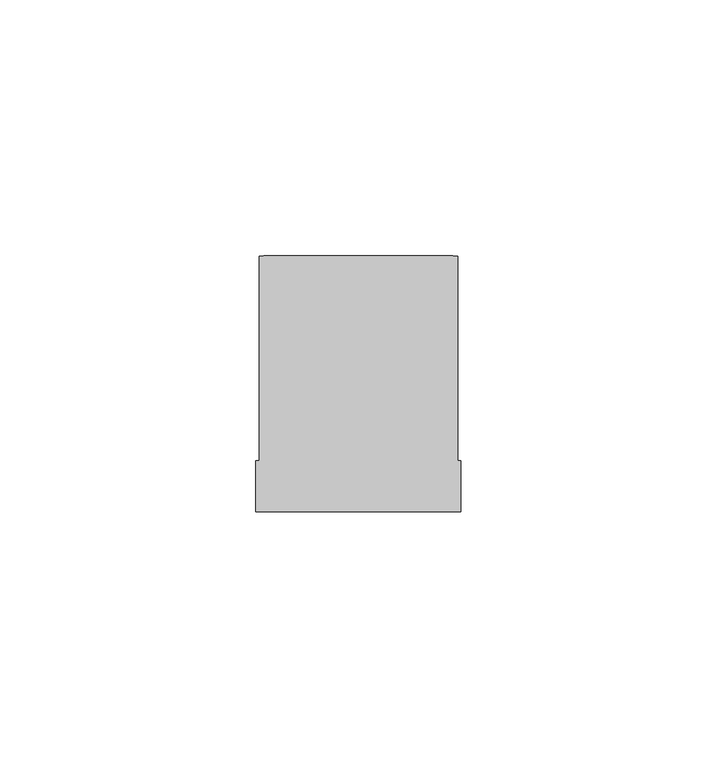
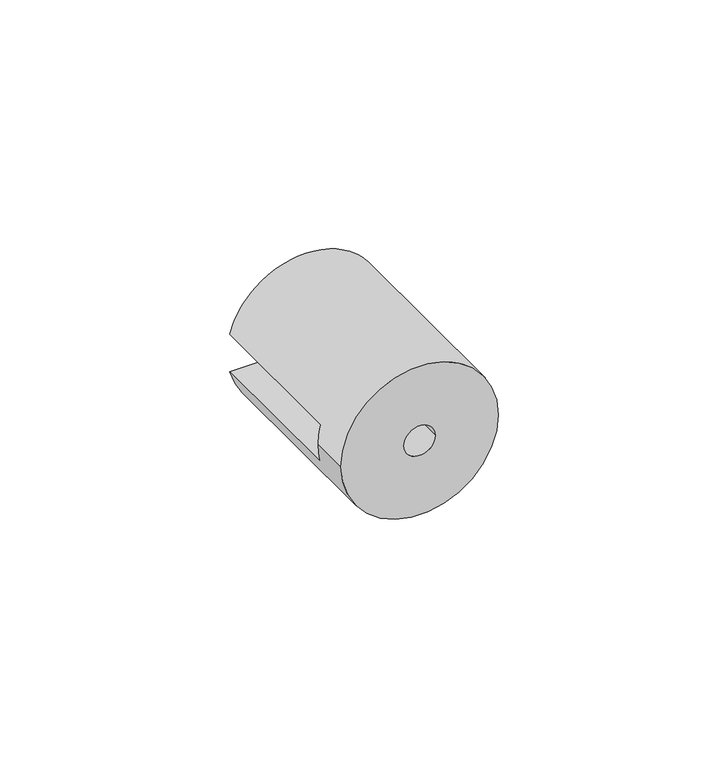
"""IFC4 building model written with IfcOpenShell, lengths in millimetres: furniture geometry, Suporte Prateleira de Vidro : Suporte Prateleira de Vidro."""

from ifc_helpers import new_model, si_unit, frame, origin, place, context, project, spatial, polyline, circle_curve, source, transform, mapped, element, save
from ifc_brep_helpers import plane_surface, cylinder_surface, revolved_surface, advanced_brep


def furniture_ae89cad7(model_context):
    return source(origin(), model_context, "Body", "AdvancedBrep", [
        advanced_brep(
        [(40.0, 0.0, 5.0), (0.0, 0.0, 5.0), (24.0, 0.0, 5.0), (16.0, 0.0, 5.0), (39.3649167, 50.0, 0.0), (0.6350833, 50.0, 0.0), (0.6350833, 50.0, 10.0), (39.3649167, 50.0, 10.0), (40.0, 10.0, 5.0), (39.3649167, 10.0, 10.0), (0.6350833, 10.0, 10.0), (0.0, 10.0, 5.0), (0.6350833, 10.0, 0.0), (39.3649167, 10.0, 0.0), (16.0, 10.0, 5.0), (24.0, 10.0, 5.0)],
        [
            (0, 1, circle_curve(frame((20.0, 0.0, 5.0), z_axis=(0.0, -1.0, 0.0), x_axis=(-1.0, 0.0, 0.0)), 20.0)),
            (1, 0, circle_curve(frame((20.0, 0.0, 5.0), z_axis=(0.0, -1.0, 0.0), x_axis=(-1.0, 0.0, 0.0)), 20.0)),
            (2, 3, circle_curve(frame((20.0, 0.0, 5.0), z_axis=(0.0, 1.0, 0.0), x_axis=(1.0, 0.0, 0.0)), 4.0)),
            (3, 2, circle_curve(frame((20.0, 0.0, 5.0), z_axis=(0.0, 1.0, 0.0), x_axis=(1.0, 0.0, 0.0)), 4.0)),
            (4, 5, circle_curve(frame((20.0, 50.0, 5.0), z_axis=(0.0, 1.0, 0.0), x_axis=(-1.0, 0.0, 0.0)), 20.0)),
            (5, 4),
            (6, 7, circle_curve(frame((20.0, 50.0, 5.0), z_axis=(0.0, 1.0, 0.0), x_axis=(-1.0, 0.0, 0.0)), 20.0)),
            (7, 6),
            (0, 8),
            (8, 9, circle_curve(frame((20.0, 10.0, 5.0), z_axis=(0.0, -1.0, 0.0), x_axis=(-1.0, 0.0, 0.0)), 20.0)),
            (9, 7),
            (6, 10),
            (10, 11, circle_curve(frame((20.0, 10.0, 5.0), z_axis=(0.0, -1.0, 0.0), x_axis=(-1.0, 0.0, 0.0)), 20.0)),
            (11, 1),
            (11, 12, circle_curve(frame((20.0, 10.0, 5.0), z_axis=(0.0, -1.0, 0.0), x_axis=(-1.0, 0.0, 0.0)), 20.0)),
            (12, 5),
            (4, 13),
            (13, 8, circle_curve(frame((20.0, 10.0, 5.0), z_axis=(0.0, -1.0, 0.0), x_axis=(-1.0, 0.0, 0.0)), 20.0)),
            (10, 9),
            (13, 12),
            (14, 15, circle_curve(frame((20.0, 10.0, 5.0), z_axis=(0.0, -1.0, 0.0), x_axis=(1.0, 0.0, 0.0)), 4.0)),
            (15, 14, circle_curve(frame((20.0, 10.0, 5.0), z_axis=(0.0, -1.0, 0.0), x_axis=(1.0, 0.0, 0.0)), 4.0)),
            (2, 15),
            (14, 3),
        ],
        [
            plane_surface(frame((0.0, 0.0, 5.0), z_axis=(0.0, -1.0, 0.0), x_axis=(0.0, 0.0, -1.0))),
            plane_surface(frame((0.0, 50.0, 5.0), z_axis=(0.0, 1.0, 0.0), x_axis=(0.0, 0.0, 1.0))),
            cylinder_surface(frame((20.0, 50.0, 5.0), z_axis=(0.0, -1.0, 0.0), x_axis=(-1.0, 0.0, 0.0)), 20.0),
            plane_surface(frame((-1.3649167, 10.0, 10.0), z_axis=(0.0, 1.0, 0.0), x_axis=(0.0, 0.0, -1.0))),
            plane_surface(frame((-1.3649167, 10.0, 0.0), z_axis=(0.0, 0.0, 1.0), x_axis=(0.0, 1.0, 0.0))),
            plane_surface(frame((41.3649167, 10.0, 10.0), z_axis=(0.0, 0.0, -1.0), x_axis=(0.0, 1.0, 0.0))),
            revolved_surface(polyline([(24.0, 0.0, 5.0), (24.0, 10.0, 5.0)]), (20.0, 10.0, 5.0), (0.0, -1.0, 0.0)),
        ],
        [
            (0, [[1, 2], [3, 4]]),
            (1, [[5, 6]]),
            (1, [[7, 8]]),
            (2, [[-1, 9, 10, 11, -7, 12, 13, 14]]),
            (2, [[-2, -14, 15, 16, -5, 17, 18, -9]]),
            (3, [[19, -10, -18, 20, -15, -13], [21, 22]]),
            (4, [[-20, -17, -6, -16]]),
            (5, [[-19, -12, -8, -11]]),
            (6, [[23, -21, 24, -3]]),
            (6, [[-23, -4, -24, -22]]),
        ],
    ),
    ])


if __name__ == "__main__":
    model = new_model("IFC4")
    model_context = context("Model", 3, world=origin())
    ifc_project = project(units=[si_unit("LENGTHUNIT", "METRE", prefix="MILLI")], contexts=[model_context])
    site = spatial("IfcSite", under=ifc_project)
    building = spatial("IfcBuilding", under=site)
    placement = place(None, origin())
    furniture_shape = furniture_ae89cad7(model_context)
    element("IfcFurniture", 1, ObjectType="Suporte Prateleira de Vidro : Suporte Prateleira de Vidro", at=placement, inside=building, context=model_context, shape_type="MappedRepresentation", body=[
        mapped(furniture_shape, transform((0.0, 0.0, 0.0), x_axis=(1.0, 0.0, 0.0), y_axis=(0.0, 1.0, 0.0), z_axis=(0.0, 0.0, 1.0))),
    ])
    save(model, "model.ifc")
